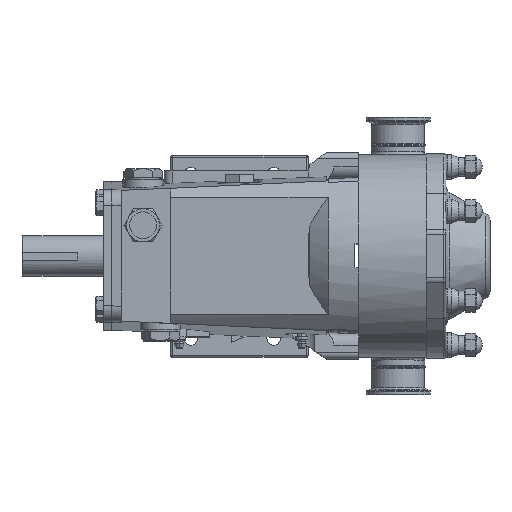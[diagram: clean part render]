
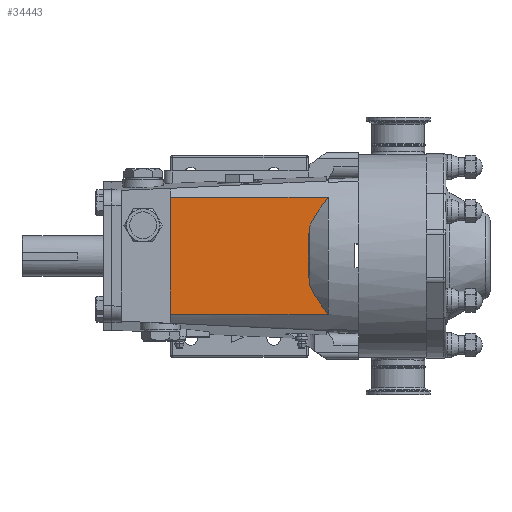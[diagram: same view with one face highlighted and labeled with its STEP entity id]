
A CAD part, top view. The second image highlights one B-rep face of the part: STEP entity #34443.
In plain terms, the highlighted planar face has unit normal (0, 0, 1).
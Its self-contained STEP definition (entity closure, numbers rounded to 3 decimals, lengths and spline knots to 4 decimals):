
#139 = VERTEX_POINT ( 'NONE', #40644 ) ;
#368 = FACE_OUTER_BOUND ( 'NONE', #4872, .T. ) ;
#449 = AXIS2_PLACEMENT_3D ( 'NONE', #44476, #758, #26274 ) ;
#758 = DIRECTION ( 'NONE',  ( 0., 0., 1. ) ) ;
#1088 = CARTESIAN_POINT ( 'NONE',  ( -1.5252, 0.8378, 4.27 ) ) ;
#1403 = CARTESIAN_POINT ( 'NONE',  ( -1.5423, -0.6107, 4.27 ) ) ;
#1717 = CARTESIAN_POINT ( 'NONE',  ( -1.5416, 0.6084, 4.27 ) ) ;
#3928 = CARTESIAN_POINT ( 'NONE',  ( -1.5185, 0.9143, 4.27 ) ) ;
#4073 = CARTESIAN_POINT ( 'NONE',  ( -5.81, 2.62, 4.27 ) ) ;
#4732 = VERTEX_POINT ( 'NONE', #22467 ) ;
#4872 = EDGE_LOOP ( 'NONE', ( #35424, #16123, #10952, #13425, #36880, #24533 ) ) ;
#5047 = VERTEX_POINT ( 'NONE', #25109 ) ;
#5196 = VECTOR ( 'NONE', #39169, 39.3701 ) ;
#5373 = CARTESIAN_POINT ( 'NONE',  ( -1.5185, 0.9143, 4.27 ) ) ;
#6729 = CARTESIAN_POINT ( 'NONE',  ( -1.2073, -1.4481, 4.27 ) ) ;
#7044 = CARTESIAN_POINT ( 'NONE',  ( -0.94, -1.8022, 4.27 ) ) ;
#7296 = CARTESIAN_POINT ( 'NONE',  ( -1.1564, 1.5246, 4.27 ) ) ;
#7755 = CARTESIAN_POINT ( 'NONE',  ( -1.3511, 1.2269, 4.27 ) ) ;
#8919 = CARTESIAN_POINT ( 'NONE',  ( -1.5319, -0.7626, 4.27 ) ) ;
#8955 = DIRECTION ( 'NONE',  ( 1., 0., 0. ) ) ;
#10578 = CARTESIAN_POINT ( 'NONE',  ( -0.9958, -1.7333, 4.27 ) ) ;
#10952 = ORIENTED_EDGE ( 'NONE', *, *, #27280, .F. ) ;
#11071 = VECTOR ( 'NONE', #43822, 39.3701 ) ;
#12546 = CARTESIAN_POINT ( 'NONE',  ( -1.56, -0.1544, 4.27 ) ) ;
#13211 = LINE ( 'NONE', #28203, #31494 ) ;
#13425 = ORIENTED_EDGE ( 'NONE', *, *, #31775, .T. ) ;
#13715 = CARTESIAN_POINT ( 'NONE',  ( -1.305, -1.3008, 4.27 ) ) ;
#13733 = VERTEX_POINT ( 'NONE', #18036 ) ;
#13820 = EDGE_CURVE ( 'NONE', #139, #4732, #13211, .T. ) ;
#13882 = CARTESIAN_POINT ( 'NONE',  ( -1.0505, -1.663, 4.27 ) ) ;
#14636 = CARTESIAN_POINT ( 'NONE',  ( -1.4808, 0.9944, 4.27 ) ) ;
#16123 = ORIENTED_EDGE ( 'NONE', *, *, #40303, .T. ) ;
#16245 = CARTESIAN_POINT ( 'NONE',  ( -5.81, -1.8022, 4.27 ) ) ;
#16398 = VERTEX_POINT ( 'NONE', #24518 ) ;
#17769 = LINE ( 'NONE', #28173, #5196 ) ;
#18036 = CARTESIAN_POINT ( 'NONE',  ( -0.94, -1.8022, 4.27 ) ) ;
#18752 = CARTESIAN_POINT ( 'NONE',  ( -0.94, 1.8022, 4.27 ) ) ;
#19870 = CARTESIAN_POINT ( 'NONE',  ( -1.56, 0.1503, 4.27 ) ) ;
#21223 = CARTESIAN_POINT ( 'NONE',  ( -1.5185, -0.9143, 4.27 ) ) ;
#21789 = CARTESIAN_POINT ( 'NONE',  ( -1.0506, 1.6656, 4.27 ) ) ;
#22248 = CARTESIAN_POINT ( 'NONE',  ( -1.3038, 1.3027, 4.27 ) ) ;
#22467 = CARTESIAN_POINT ( 'NONE',  ( -0.94, 1.8022, 4.27 ) ) ;
#23243 = CARTESIAN_POINT ( 'NONE',  ( -1.5185, -0.9143, 4.27 ) ) ;
#23550 = CARTESIAN_POINT ( 'NONE',  ( -1.546, 0.532, 4.27 ) ) ;
#23750 = EDGE_CURVE ( 'NONE', #4732, #16398, #27693, .T. ) ;
#24518 = CARTESIAN_POINT ( 'NONE',  ( -1.5185, 0.9143, 4.27 ) ) ;
#24533 = ORIENTED_EDGE ( 'NONE', *, *, #13820, .F. ) ;
#24739 = CARTESIAN_POINT ( 'NONE',  ( -1.1562, -1.5204, 4.27 ) ) ;
#25109 = CARTESIAN_POINT ( 'NONE',  ( -1.5185, -0.9143, 4.27 ) ) ;
#25387 = CARTESIAN_POINT ( 'NONE',  ( -1.3517, -1.2258, 4.27 ) ) ;
#26191 = B_SPLINE_CURVE_WITH_KNOTS ( 'NONE', 3,
 ( #23243, #8919, #1403, #41722, #12546, #19870, #45451, #23550, #1717, #27218, #1088, #5373 ),
 .UNSPECIFIED., .F., .F.,
 ( 4, 2, 2, 2, 2, 4 ),
 ( 0.027, 0.0386, 0.0502, 0.0618, 0.0676, 0.0734 ),
 .UNSPECIFIED. ) ;
#26274 = DIRECTION ( 'NONE',  ( 0., 1., 0. ) ) ;
#26428 = PLANE ( 'NONE',  #449 ) ;
#26903 = EDGE_CURVE ( 'NONE', #139, #46890, #45889, .T. ) ;
#27218 = CARTESIAN_POINT ( 'NONE',  ( -1.5312, 0.7613, 4.27 ) ) ;
#27280 = EDGE_CURVE ( 'NONE', #5047, #13733, #46425, .T. ) ;
#27693 = B_SPLINE_CURVE_WITH_KNOTS ( 'NONE', 3,
 ( #18752, #21789, #7296, #22248, #7755, #44284, #14636, #3928 ),
 .UNSPECIFIED., .F., .F.,
 ( 4, 2, 2, 4 ),
 ( 0.0512, 0.0646, 0.0712, 0.0779 ),
 .UNSPECIFIED. ) ;
#28173 = CARTESIAN_POINT ( 'NONE',  ( -7.62, -1.8022, 4.27 ) ) ;
#28203 = CARTESIAN_POINT ( 'NONE',  ( -7.62, 1.8022, 4.27 ) ) ;
#31494 = VECTOR ( 'NONE', #8955, 39.3701 ) ;
#31775 = EDGE_CURVE ( 'NONE', #5047, #16398, #26191, .T. ) ;
#32072 = CARTESIAN_POINT ( 'NONE',  ( -1.4395, -1.0727, 4.27 ) ) ;
#34443 = ADVANCED_FACE ( 'NONE', ( #368 ), #26428, .T. ) ;
#35424 = ORIENTED_EDGE ( 'NONE', *, *, #26903, .T. ) ;
#36880 = ORIENTED_EDGE ( 'NONE', *, *, #23750, .F. ) ;
#39169 = DIRECTION ( 'NONE',  ( 1., 0., 0. ) ) ;
#40303 = EDGE_CURVE ( 'NONE', #46890, #13733, #17769, .T. ) ;
#40644 = CARTESIAN_POINT ( 'NONE',  ( -5.81, 1.8022, 4.27 ) ) ;
#41722 = CARTESIAN_POINT ( 'NONE',  ( -1.5563, -0.3066, 4.27 ) ) ;
#43822 = DIRECTION ( 'NONE',  ( 0., -1., 0. ) ) ;
#44284 = CARTESIAN_POINT ( 'NONE',  ( -1.4395, 1.0728, 4.27 ) ) ;
#44476 = CARTESIAN_POINT ( 'NONE',  ( -3.81, 2.62, 4.27 ) ) ;
#45451 = CARTESIAN_POINT ( 'NONE',  ( -1.5565, 0.3029, 4.27 ) ) ;
#45889 = LINE ( 'NONE', #4073, #11071 ) ;
#46425 = B_SPLINE_CURVE_WITH_KNOTS ( 'NONE', 3,
 ( #21223, #46625, #32072, #25387, #13715, #6729, #24739, #13882, #10578, #7044 ),
 .UNSPECIFIED., .F., .F.,
 ( 4, 2, 2, 2, 4 ),
 ( 0.0624, 0.0691, 0.0759, 0.0826, 0.0893 ),
 .UNSPECIFIED. ) ;
#46625 = CARTESIAN_POINT ( 'NONE',  ( -1.4807, -0.9945, 4.27 ) ) ;
#46890 = VERTEX_POINT ( 'NONE', #16245 ) ;
